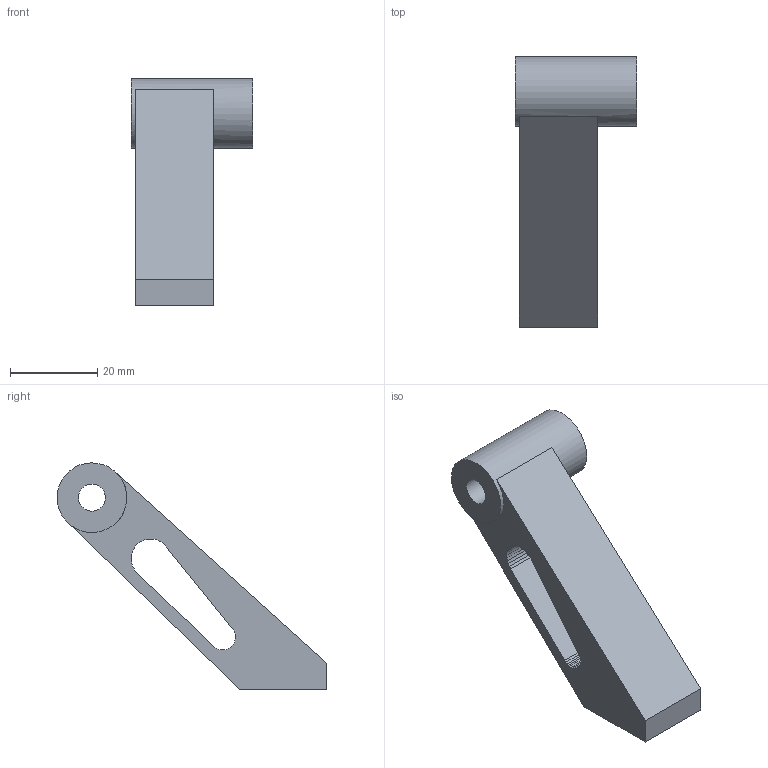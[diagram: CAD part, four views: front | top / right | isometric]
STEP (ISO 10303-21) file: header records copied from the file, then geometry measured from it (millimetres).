
FILE_DESCRIPTION(('Open CASCADE Model'),'2;1');
FILE_NAME('Open CASCADE Shape Model','2026-10-15T19:48:37',('Author'),( 'Open CASCADE'),'Open CASCADE STEP processor 7.9','Open CASCADE 7.9' ,'Unknown');
FILE_SCHEMA(('AUTOMOTIVE_DESIGN { 1 0 10303 214 1 1 1 1 }'));
Length unit declared in the file: millimetre
Products named in the file (1): Open CASCADE STEP translator 7.9 11
Bounding box: 28 x 62 x 52 mm (x, y, z)
Volume: 18342.1 mm3; surface area: 7286.4 mm2
Topology: 1 solids, 1 shells, 52 faces, 150 edges, 100 vertices
Faces by surface type: plane 50, cylinder 2
Full cylindrical faces by diameter (mm): 6.2 x1, 16 x1
Entity records: 3498 total; most frequent: CARTESIAN_POINT 809, DIRECTION 388, ORIENTED_EDGE 300, PCURVE 300, DEFINITIONAL_REPRESENTATION 300, LINE 264, VECTOR 264, B_SPLINE_CURVE_WITH_KNOTS 170
